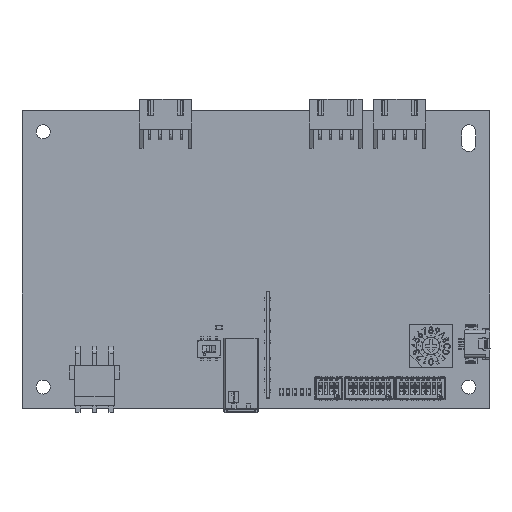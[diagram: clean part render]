
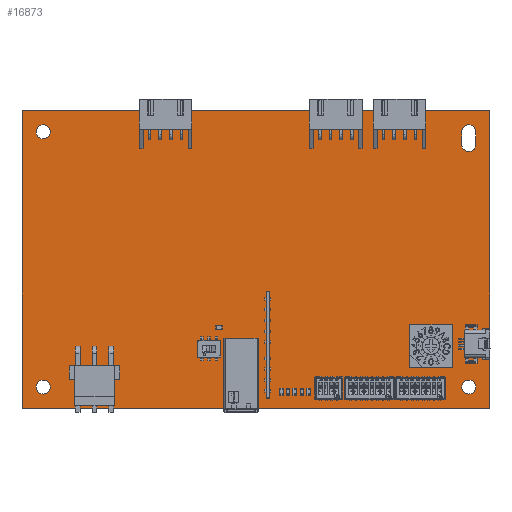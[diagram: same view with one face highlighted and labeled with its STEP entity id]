
A CAD part, top view. The second image highlights one B-rep face of the part: STEP entity #16873.
In plain terms, the highlighted planar face has unit normal (0, 0, 1).
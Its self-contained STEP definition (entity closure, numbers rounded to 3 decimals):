
#707 = AXIS2_PLACEMENT_3D ( 'NONE', #74998, #31791, #38693 ) ;
#718 = DIRECTION ( 'NONE',  ( 0., -1., 0. ) ) ;
#824 = ORIENTED_EDGE ( 'NONE', *, *, #42484, .T. ) ;
#960 = CARTESIAN_POINT ( 'NONE',  ( 5., 5., 0. ) ) ;
#1462 = DIRECTION ( 'NONE',  ( 1., 0., 0. ) ) ;
#1808 = CARTESIAN_POINT ( 'NONE',  ( 106.65, 65., 0. ) ) ;
#2256 = CARTESIAN_POINT ( 'NONE',  ( 105., 5., 0. ) ) ;
#3369 = VECTOR ( 'NONE', #16296, 1000. ) ;
#4147 = EDGE_CURVE ( 'NONE', #52594, #39044, #73007, .T. ) ;
#5359 = LINE ( 'NONE', #24494, #73431 ) ;
#5846 = LINE ( 'NONE', #37608, #62954 ) ;
#5863 = VERTEX_POINT ( 'NONE', #36811 ) ;
#6021 = DIRECTION ( 'NONE',  ( 0., 0., -1. ) ) ;
#6819 = FACE_BOUND ( 'NONE', #76663, .T. ) ;
#6837 = LINE ( 'NONE', #31671, #13057 ) ;
#7045 = DIRECTION ( 'NONE',  ( 0., -1., 0. ) ) ;
#8386 = EDGE_CURVE ( 'NONE', #39044, #55818, #5846, .T. ) ;
#9604 = ORIENTED_EDGE ( 'NONE', *, *, #54413, .F. ) ;
#11028 = DIRECTION ( 'NONE',  ( 1., 0., 0. ) ) ;
#12117 = DIRECTION ( 'NONE',  ( 1., 0., 0. ) ) ;
#12177 = CARTESIAN_POINT ( 'NONE',  ( 105., 62., 0. ) ) ;
#12696 = ORIENTED_EDGE ( 'NONE', *, *, #4147, .F. ) ;
#13057 = VECTOR ( 'NONE', #67984, 1000. ) ;
#14427 = DIRECTION ( 'NONE',  ( 0., 0., 1. ) ) ;
#15227 = CARTESIAN_POINT ( 'NONE',  ( 105., 5., 0. ) ) ;
#16296 = DIRECTION ( 'NONE',  ( -1., 0., 0. ) ) ;
#16780 = ORIENTED_EDGE ( 'NONE', *, *, #31235, .F. ) ;
#16873 = ADVANCED_FACE ( 'NONE', ( #30856, #31260, #30456, #6819, #49206 ), #32059, .F. ) ;
#17128 = ORIENTED_EDGE ( 'NONE', *, *, #8386, .F. ) ;
#17617 = EDGE_LOOP ( 'NONE', ( #45787, #35316 ) ) ;
#17852 = VECTOR ( 'NONE', #69843, 1000. ) ;
#17950 = DIRECTION ( 'NONE',  ( 0., 0., 1. ) ) ;
#18217 = DIRECTION ( 'NONE',  ( 1., 0., 0. ) ) ;
#18250 = CARTESIAN_POINT ( 'NONE',  ( 0., 0., 0. ) ) ;
#18662 = LINE ( 'NONE', #18250, #36844 ) ;
#20025 = AXIS2_PLACEMENT_3D ( 'NONE', #15227, #14427, #33956 ) ;
#20067 = DIRECTION ( 'NONE',  ( 1., 0., 0. ) ) ;
#21443 = VERTEX_POINT ( 'NONE', #49295 ) ;
#23607 = CIRCLE ( 'NONE', #39183, 1.65 ) ;
#23675 = DIRECTION ( 'NONE',  ( 1., 0., 0. ) ) ;
#24494 = CARTESIAN_POINT ( 'NONE',  ( 0., 0., 0. ) ) ;
#25620 = VERTEX_POINT ( 'NONE', #40387 ) ;
#26727 = ORIENTED_EDGE ( 'NONE', *, *, #79118, .T. ) ;
#28916 = ORIENTED_EDGE ( 'NONE', *, *, #52520, .T. ) ;
#29578 = VERTEX_POINT ( 'NONE', #74644 ) ;
#29686 = AXIS2_PLACEMENT_3D ( 'NONE', #2256, #63381, #1462 ) ;
#29951 = CARTESIAN_POINT ( 'NONE',  ( 3.35, 5., 0. ) ) ;
#30456 = FACE_BOUND ( 'NONE', #72983, .T. ) ;
#30768 = AXIS2_PLACEMENT_3D ( 'NONE', #54481, #79752, #12117 ) ;
#30856 = FACE_BOUND ( 'NONE', #17617, .T. ) ;
#30903 = DIRECTION ( 'NONE',  ( 1., 0., 0. ) ) ;
#31235 = EDGE_CURVE ( 'NONE', #78235, #29578, #42325, .T. ) ;
#31260 = FACE_BOUND ( 'NONE', #72535, .T. ) ;
#31671 = CARTESIAN_POINT ( 'NONE',  ( 110., 0., 0. ) ) ;
#31791 = DIRECTION ( 'NONE',  ( 0., 0., 1. ) ) ;
#32059 = PLANE ( 'NONE',  #45060 ) ;
#32066 = EDGE_CURVE ( 'NONE', #21443, #5863, #5359, .T. ) ;
#32242 = CARTESIAN_POINT ( 'NONE',  ( 3.35, 65., 0. ) ) ;
#32563 = EDGE_LOOP ( 'NONE', ( #26727, #70674, #28916, #824 ) ) ;
#32589 = CARTESIAN_POINT ( 'NONE',  ( 6.65, 65., 0. ) ) ;
#32980 = ORIENTED_EDGE ( 'NONE', *, *, #44215, .F. ) ;
#33520 = CIRCLE ( 'NONE', #47838, 1.65 ) ;
#33956 = DIRECTION ( 'NONE',  ( 1., 0., 0. ) ) ;
#35316 = ORIENTED_EDGE ( 'NONE', *, *, #69487, .F. ) ;
#35773 = DIRECTION ( 'NONE',  ( 0., -1., 0. ) ) ;
#36168 = CIRCLE ( 'NONE', #64777, 1.65 ) ;
#36811 = CARTESIAN_POINT ( 'NONE',  ( 110., 0., 0. ) ) ;
#36844 = VECTOR ( 'NONE', #35773, 1000. ) ;
#37300 = CIRCLE ( 'NONE', #30768, 1.65 ) ;
#37608 = CARTESIAN_POINT ( 'NONE',  ( 103.35, 65., 0. ) ) ;
#38693 = DIRECTION ( 'NONE',  ( 1., 0., 0. ) ) ;
#39044 = VERTEX_POINT ( 'NONE', #60604 ) ;
#39183 = AXIS2_PLACEMENT_3D ( 'NONE', #960, #75873, #20067 ) ;
#40387 = CARTESIAN_POINT ( 'NONE',  ( 110., 70., 0. ) ) ;
#41055 = VERTEX_POINT ( 'NONE', #56278 ) ;
#41412 = CARTESIAN_POINT ( 'NONE',  ( 0., 70., 0. ) ) ;
#42325 = CIRCLE ( 'NONE', #707, 1.65 ) ;
#42484 = EDGE_CURVE ( 'NONE', #25620, #74843, #65208, .T. ) ;
#42950 = EDGE_CURVE ( 'NONE', #77511, #61764, #37300, .T. ) ;
#43559 = CARTESIAN_POINT ( 'NONE',  ( 103.35, 5., 0. ) ) ;
#44215 = EDGE_CURVE ( 'NONE', #41055, #52594, #64129, .T. ) ;
#44852 = EDGE_CURVE ( 'NONE', #61764, #77511, #36168, .T. ) ;
#45060 = AXIS2_PLACEMENT_3D ( 'NONE', #56910, #6021, #718 ) ;
#45787 = ORIENTED_EDGE ( 'NONE', *, *, #78581, .F. ) ;
#46475 = CARTESIAN_POINT ( 'NONE',  ( 103.35, 62., 0. ) ) ;
#47838 = AXIS2_PLACEMENT_3D ( 'NONE', #12177, #67595, #30903 ) ;
#47907 = CIRCLE ( 'NONE', #29686, 1.65 ) ;
#49206 = FACE_OUTER_BOUND ( 'NONE', #32563, .T. ) ;
#49295 = CARTESIAN_POINT ( 'NONE',  ( 0., 0., 0. ) ) ;
#52520 = EDGE_CURVE ( 'NONE', #5863, #25620, #6837, .T. ) ;
#52594 = VERTEX_POINT ( 'NONE', #67563 ) ;
#54076 = DIRECTION ( 'NONE',  ( 0., 0., 1. ) ) ;
#54281 = VERTEX_POINT ( 'NONE', #72677 ) ;
#54413 = EDGE_CURVE ( 'NONE', #29578, #78235, #23607, .T. ) ;
#54481 = CARTESIAN_POINT ( 'NONE',  ( 5., 65., 0. ) ) ;
#55818 = VERTEX_POINT ( 'NONE', #46475 ) ;
#56278 = CARTESIAN_POINT ( 'NONE',  ( 106.65, 62., 0. ) ) ;
#56910 = CARTESIAN_POINT ( 'NONE',  ( 0., 0., 0. ) ) ;
#60604 = CARTESIAN_POINT ( 'NONE',  ( 103.35, 65., 0. ) ) ;
#61764 = VERTEX_POINT ( 'NONE', #32589 ) ;
#61981 = VERTEX_POINT ( 'NONE', #43559 ) ;
#62954 = VECTOR ( 'NONE', #7045, 1000. ) ;
#63381 = DIRECTION ( 'NONE',  ( 0., 0., 1. ) ) ;
#64018 = ORIENTED_EDGE ( 'NONE', *, *, #44852, .F. ) ;
#64129 = LINE ( 'NONE', #1808, #17852 ) ;
#64777 = AXIS2_PLACEMENT_3D ( 'NONE', #79881, #17950, #11028 ) ;
#65208 = LINE ( 'NONE', #66815, #3369 ) ;
#66815 = CARTESIAN_POINT ( 'NONE',  ( 0., 70., 0. ) ) ;
#67563 = CARTESIAN_POINT ( 'NONE',  ( 106.65, 65., 0. ) ) ;
#67595 = DIRECTION ( 'NONE',  ( 0., 0., 1. ) ) ;
#67807 = AXIS2_PLACEMENT_3D ( 'NONE', #72825, #54076, #18217 ) ;
#67984 = DIRECTION ( 'NONE',  ( 0., 1., 0. ) ) ;
#68704 = EDGE_CURVE ( 'NONE', #55818, #41055, #33520, .T. ) ;
#69487 = EDGE_CURVE ( 'NONE', #61981, #54281, #47907, .T. ) ;
#69843 = DIRECTION ( 'NONE',  ( 0., 1., 0. ) ) ;
#70674 = ORIENTED_EDGE ( 'NONE', *, *, #32066, .T. ) ;
#71380 = ORIENTED_EDGE ( 'NONE', *, *, #42950, .F. ) ;
#72535 = EDGE_LOOP ( 'NONE', ( #9604, #16780 ) ) ;
#72677 = CARTESIAN_POINT ( 'NONE',  ( 106.65, 5., 0. ) ) ;
#72825 = CARTESIAN_POINT ( 'NONE',  ( 105., 65., 0. ) ) ;
#72983 = EDGE_LOOP ( 'NONE', ( #64018, #71380 ) ) ;
#73007 = CIRCLE ( 'NONE', #67807, 1.65 ) ;
#73431 = VECTOR ( 'NONE', #23675, 1000. ) ;
#74644 = CARTESIAN_POINT ( 'NONE',  ( 6.65, 5., 0. ) ) ;
#74843 = VERTEX_POINT ( 'NONE', #41412 ) ;
#74998 = CARTESIAN_POINT ( 'NONE',  ( 5., 5., 0. ) ) ;
#75873 = DIRECTION ( 'NONE',  ( 0., 0., 1. ) ) ;
#76663 = EDGE_LOOP ( 'NONE', ( #17128, #12696, #32980, #78243 ) ) ;
#77511 = VERTEX_POINT ( 'NONE', #32242 ) ;
#78235 = VERTEX_POINT ( 'NONE', #29951 ) ;
#78243 = ORIENTED_EDGE ( 'NONE', *, *, #68704, .F. ) ;
#78581 = EDGE_CURVE ( 'NONE', #54281, #61981, #79707, .T. ) ;
#79118 = EDGE_CURVE ( 'NONE', #74843, #21443, #18662, .T. ) ;
#79707 = CIRCLE ( 'NONE', #20025, 1.65 ) ;
#79752 = DIRECTION ( 'NONE',  ( 0., 0., 1. ) ) ;
#79881 = CARTESIAN_POINT ( 'NONE',  ( 5., 65., 0. ) ) ;
